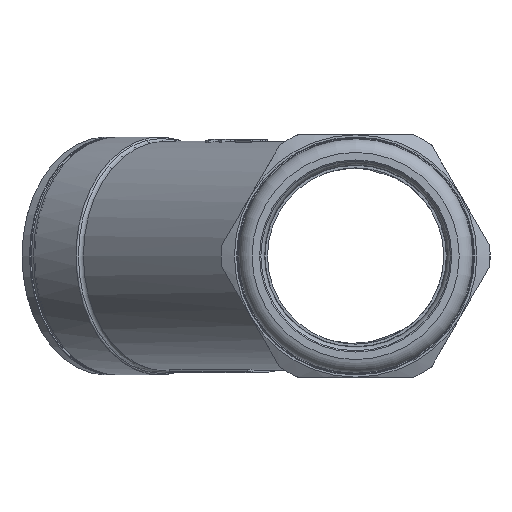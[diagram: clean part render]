
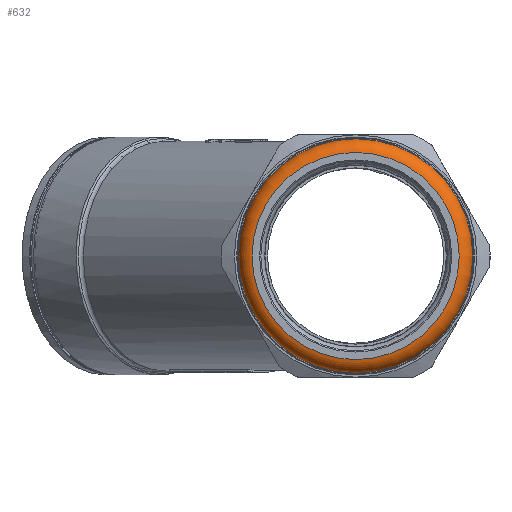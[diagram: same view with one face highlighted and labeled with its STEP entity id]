
A CAD part, left-side view. The second image highlights one B-rep face of the part: STEP entity #632.
In plain terms, the highlighted toroidal (fillet/blend) face has major radius 22.927 mm and minor radius 3.673 mm.
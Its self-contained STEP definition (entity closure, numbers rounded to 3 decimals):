
#598=CARTESIAN_POINT('',(-81.374,25.524,0.0));
#599=VERTEX_POINT('',#598);
#600=CARTESIAN_POINT('',(-81.374,0.0,0.0));
#601=DIRECTION('',(-1.0,0.0,0.0));
#602=DIRECTION('',(0.0,1.0,0.0));
#603=AXIS2_PLACEMENT_3D('',#600,#601,#602);
#604=CIRCLE('',#603,25.524);
#605=EDGE_CURVE('',#599,#599,#604,.T.);
#613=CARTESIAN_POINT('',(-83.971,0.0,0.0));
#614=DIRECTION('',(-1.0,0.0,0.0));
#615=DIRECTION('',(0.0,0.0,1.0));
#616=AXIS2_PLACEMENT_3D('',#613,#614,#615);
#617=TOROIDAL_SURFACE('',#616,22.927,3.673);
#618=CARTESIAN_POINT('',(-87.6,23.5,0.0));
#619=VERTEX_POINT('',#618);
#620=CARTESIAN_POINT('',(-87.6,0.0,0.0));
#621=DIRECTION('',(-1.0,0.0,0.0));
#622=DIRECTION('',(0.0,1.0,0.0));
#623=AXIS2_PLACEMENT_3D('',#620,#621,#622);
#624=CIRCLE('',#623,23.5);
#625=EDGE_CURVE('',#619,#619,#624,.T.);
#626=ORIENTED_EDGE('',*,*,#625,.F.);
#627=EDGE_LOOP('',(#626));
#628=FACE_OUTER_BOUND('',#627,.T.);
#629=ORIENTED_EDGE('',*,*,#605,.T.);
#630=EDGE_LOOP('',(#629));
#631=FACE_BOUND('',#630,.T.);
#632=ADVANCED_FACE('',(#628,#631),#617,.T.);
